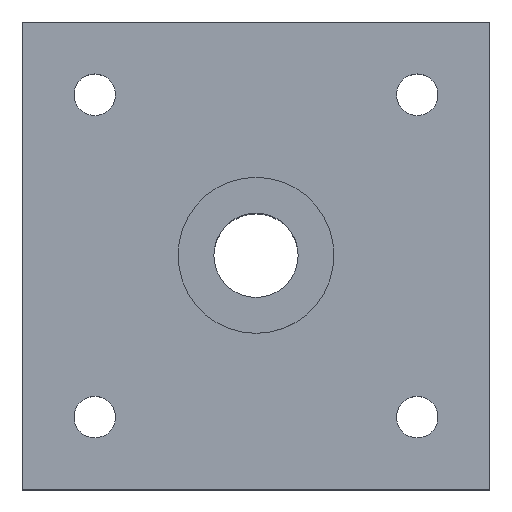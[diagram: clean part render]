
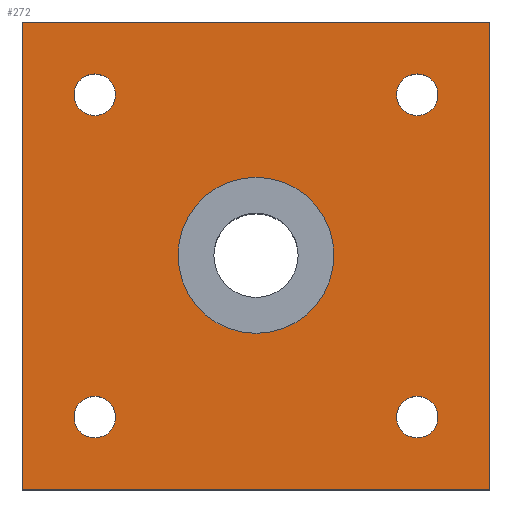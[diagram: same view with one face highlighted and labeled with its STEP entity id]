
A CAD part, top view. The second image highlights one B-rep face of the part: STEP entity #272.
In plain terms, the highlighted planar face has unit normal (0, 0, 1).
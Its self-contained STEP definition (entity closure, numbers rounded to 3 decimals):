
#19=FACE_BOUND('',#68,.T.);
#20=FACE_BOUND('',#69,.T.);
#21=FACE_BOUND('',#70,.T.);
#22=FACE_BOUND('',#71,.T.);
#23=FACE_BOUND('',#72,.T.);
#35=PLANE('',#316);
#50=FACE_OUTER_BOUND('',#67,.T.);
#67=EDGE_LOOP('',(#234,#235,#236,#237));
#68=EDGE_LOOP('',(#238));
#69=EDGE_LOOP('',(#239));
#70=EDGE_LOOP('',(#240));
#71=EDGE_LOOP('',(#241));
#72=EDGE_LOOP('',(#242));
#88=LINE('',#449,#107);
#91=LINE('',#455,#110);
#94=LINE('',#461,#113);
#97=LINE('',#465,#116);
#107=VECTOR('',#377,10.);
#110=VECTOR('',#382,10.);
#113=VECTOR('',#387,10.);
#116=VECTOR('',#392,10.);
#121=CIRCLE('',#298,4.05);
#123=CIRCLE('',#301,2.);
#125=CIRCLE('',#304,2.);
#127=CIRCLE('',#307,2.);
#129=CIRCLE('',#310,2.);
#135=VERTEX_POINT('',#413);
#137=VERTEX_POINT('',#419);
#139=VERTEX_POINT('',#425);
#141=VERTEX_POINT('',#431);
#143=VERTEX_POINT('',#437);
#147=VERTEX_POINT('',#446);
#148=VERTEX_POINT('',#448);
#150=VERTEX_POINT('',#454);
#152=VERTEX_POINT('',#460);
#159=EDGE_CURVE('',#135,#135,#121,.T.);
#162=EDGE_CURVE('',#137,#137,#123,.T.);
#165=EDGE_CURVE('',#139,#139,#125,.T.);
#168=EDGE_CURVE('',#141,#141,#127,.T.);
#171=EDGE_CURVE('',#143,#143,#129,.T.);
#176=EDGE_CURVE('',#148,#147,#88,.T.);
#179=EDGE_CURVE('',#150,#148,#91,.T.);
#182=EDGE_CURVE('',#152,#150,#94,.T.);
#185=EDGE_CURVE('',#147,#152,#97,.T.);
#234=ORIENTED_EDGE('',*,*,#185,.T.);
#235=ORIENTED_EDGE('',*,*,#182,.T.);
#236=ORIENTED_EDGE('',*,*,#179,.T.);
#237=ORIENTED_EDGE('',*,*,#176,.T.);
#238=ORIENTED_EDGE('',*,*,#171,.T.);
#239=ORIENTED_EDGE('',*,*,#168,.T.);
#240=ORIENTED_EDGE('',*,*,#165,.T.);
#241=ORIENTED_EDGE('',*,*,#162,.T.);
#242=ORIENTED_EDGE('',*,*,#159,.T.);
#272=ADVANCED_FACE('',(#50,#19,#20,#21,#22,#23),#35,.T.);
#298=AXIS2_PLACEMENT_3D('',#414,#340,#341);
#301=AXIS2_PLACEMENT_3D('',#420,#347,#348);
#304=AXIS2_PLACEMENT_3D('',#426,#354,#355);
#307=AXIS2_PLACEMENT_3D('',#432,#361,#362);
#310=AXIS2_PLACEMENT_3D('',#438,#368,#369);
#316=AXIS2_PLACEMENT_3D('',#466,#393,#394);
#340=DIRECTION('center_axis',(0.,0.,-1.));
#341=DIRECTION('ref_axis',(1.,0.,0.));
#347=DIRECTION('center_axis',(0.,0.,-1.));
#348=DIRECTION('ref_axis',(1.,0.,0.));
#354=DIRECTION('center_axis',(0.,0.,-1.));
#355=DIRECTION('ref_axis',(1.,0.,0.));
#361=DIRECTION('center_axis',(0.,0.,-1.));
#362=DIRECTION('ref_axis',(1.,0.,0.));
#368=DIRECTION('center_axis',(0.,0.,-1.));
#369=DIRECTION('ref_axis',(1.,0.,0.));
#377=DIRECTION('',(0.,1.,0.));
#382=DIRECTION('',(1.,0.,0.));
#387=DIRECTION('',(0.,-1.,0.));
#392=DIRECTION('',(-1.,0.,0.));
#393=DIRECTION('center_axis',(0.,0.,1.));
#394=DIRECTION('ref_axis',(1.,0.,0.));
#413=CARTESIAN_POINT('',(-4.05,0.,5.));
#414=CARTESIAN_POINT('Origin',(0.,0.,5.));
#419=CARTESIAN_POINT('',(-17.5,15.5,5.));
#420=CARTESIAN_POINT('Origin',(-15.5,15.5,5.));
#425=CARTESIAN_POINT('',(-17.5,-15.5,5.));
#426=CARTESIAN_POINT('Origin',(-15.5,-15.5,5.));
#431=CARTESIAN_POINT('',(13.5,-15.5,5.));
#432=CARTESIAN_POINT('Origin',(15.5,-15.5,5.));
#437=CARTESIAN_POINT('',(13.5,15.5,5.));
#438=CARTESIAN_POINT('Origin',(15.5,15.5,5.));
#446=CARTESIAN_POINT('',(22.5,22.5,5.));
#448=CARTESIAN_POINT('',(22.5,-22.5,5.));
#449=CARTESIAN_POINT('',(22.5,22.5,5.));
#454=CARTESIAN_POINT('',(-22.5,-22.5,5.));
#455=CARTESIAN_POINT('',(22.5,-22.5,5.));
#460=CARTESIAN_POINT('',(-22.5,22.5,5.));
#461=CARTESIAN_POINT('',(-22.5,-22.5,5.));
#465=CARTESIAN_POINT('',(-22.5,22.5,5.));
#466=CARTESIAN_POINT('Origin',(0.,0.,5.));
